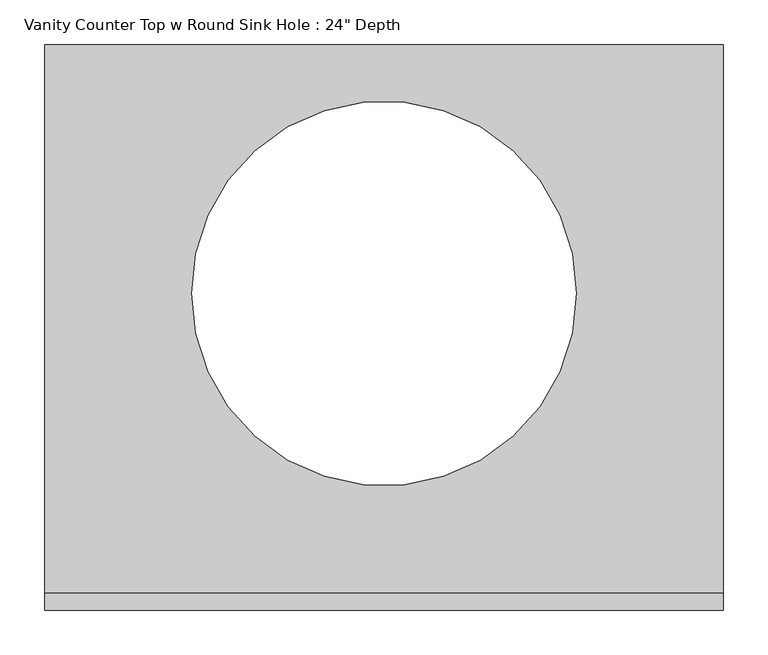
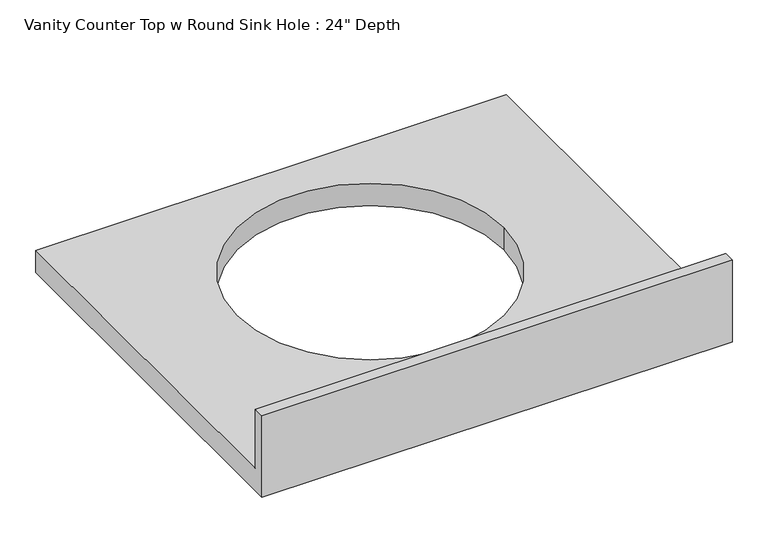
"""IFC4 building model written with IfcOpenShell, lengths in millimetres: furniture geometry."""

from ifc_helpers import new_model, si_unit, frame, origin, place, context, project, spatial, polyline, circle_curve, source, transform, mapped, element, save
from ifc_brep_helpers import plane_surface, revolved_surface, advanced_brep


def furniture_1a92acab(model_context):
    return source(origin(), model_context, "Body", "AdvancedBrep", [
        advanced_brep(
        [(-1327.4622951, 635.0, 787.4), (-1327.4622951, 19.05, 787.4), (-565.4622951, 19.05, 787.4), (-565.4622951, 635.0, 787.4), (-730.5622951, 355.6, 787.4), (-1162.3622951, 355.6, 787.4), (-565.4622951, 0.0, 749.3), (-1327.4622951, 0.0, 749.3), (-1327.4622951, 635.0, 749.3), (-565.4622951, 635.0, 749.3), (-1162.3622951, 355.6, 749.3), (-730.5622951, 355.6, 749.3), (-565.4622951, 0.0, 889.0), (-1327.4622951, 0.0, 889.0), (-1327.4622951, 19.05, 889.0), (-565.4622951, 19.05, 889.0)],
        [
            (0, 1),
            (1, 2),
            (2, 3),
            (3, 0),
            (4, 5, circle_curve(frame((-946.4622951, 355.6, 787.4), z_axis=(0.0, 0.0, -1.0), x_axis=(1.0, 0.0, 0.0)), 215.9)),
            (5, 4, circle_curve(frame((-946.4622951, 355.6, 787.4), z_axis=(0.0, 0.0, -1.0), x_axis=(1.0, 0.0, 0.0)), 215.9)),
            (6, 7),
            (7, 8),
            (8, 9),
            (9, 6),
            (10, 11, circle_curve(frame((-946.4622951, 355.6, 749.3), z_axis=(0.0, 0.0, 1.0), x_axis=(1.0, 0.0, 0.0)), 215.9)),
            (11, 10, circle_curve(frame((-946.4622951, 355.6, 749.3), z_axis=(0.0, 0.0, 1.0), x_axis=(1.0, 0.0, 0.0)), 215.9)),
            (6, 12),
            (12, 13),
            (13, 7),
            (13, 14),
            (14, 1),
            (0, 8),
            (3, 9),
            (2, 15),
            (15, 12),
            (5, 10),
            (11, 4),
            (15, 14),
        ],
        [
            plane_surface(frame((-1327.4622951, 0.0, 787.4), z_axis=(0.0, 0.0, 1.0), x_axis=(-1.0, 0.0, 0.0))),
            plane_surface(frame((-1327.4622951, 0.0, 749.3), z_axis=(0.0, 0.0, -1.0), x_axis=(1.0, 0.0, 0.0))),
            plane_surface(frame((-565.4622951, 0.0, 787.4), z_axis=(0.0, -1.0, 0.0), x_axis=(0.0, 0.0, -1.0))),
            plane_surface(frame((-1327.4622951, 0.0, 787.4), z_axis=(-1.0, 0.0, 0.0), x_axis=(0.0, 0.0, -1.0))),
            plane_surface(frame((-1327.4622951, 635.0, 787.4), z_axis=(0.0, 1.0, 0.0), x_axis=(0.0, 0.0, -1.0))),
            plane_surface(frame((-565.4622951, 635.0, 787.4), z_axis=(1.0, 0.0, 0.0), x_axis=(0.0, 0.0, -1.0))),
            revolved_surface(polyline([(-730.5622951, 355.6, 787.4), (-730.5622951, 355.6, 749.3)]), (-946.4622951, 355.6, 749.3), (0.0, 0.0, 1.0)),
            plane_surface(frame((-1327.4622951, 0.0, 889.0), z_axis=(0.0, 0.0, 1.0), x_axis=(0.0, 1.0, 0.0))),
            plane_surface(frame((-1327.4622951, 19.05, 889.0), z_axis=(0.0, 1.0, 0.0), x_axis=(0.0, 0.0, -1.0))),
        ],
        [
            (0, [[1, 2, 3, 4], [5, 6]]),
            (1, [[7, 8, 9, 10], [11, 12]]),
            (2, [[13, 14, 15, -7]]),
            (3, [[-15, 16, 17, -1, 18, -8]]),
            (4, [[19, -9, -18, -4]]),
            (5, [[-19, -3, 20, 21, -13, -10]]),
            (6, [[-6, 22, -12, 23]]),
            (6, [[-11, -22, -5, -23]]),
            (7, [[-14, -21, 24, -16]]),
            (8, [[-20, -2, -17, -24]]),
        ],
    ),
    ])


if __name__ == "__main__":
    model = new_model("IFC4")
    model_context = context("Model", 3, world=origin())
    ifc_project = project(units=[si_unit("LENGTHUNIT", "METRE", prefix="MILLI")], contexts=[model_context])
    site = spatial("IfcSite", under=ifc_project)
    building = spatial("IfcBuilding", under=site)
    placement = place(None, origin())
    furniture_shape = furniture_1a92acab(model_context)
    element("IfcFurniture", 1, ObjectType="Vanity Counter Top w Round Sink Hole : 24\" Depth", at=placement, inside=building, context=model_context, shape_type="MappedRepresentation", body=[
        mapped(furniture_shape, transform((0.0, 0.0, 0.0), x_axis=(1.0, 0.0, 0.0), y_axis=(0.0, 1.0, 0.0), z_axis=(0.0, 0.0, 1.0))),
    ])
    save(model, "model.ifc")
